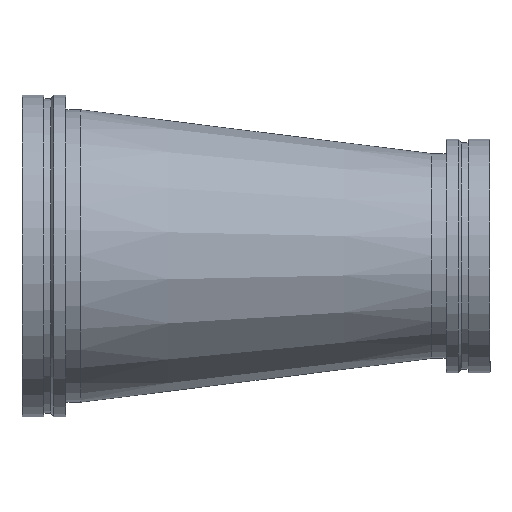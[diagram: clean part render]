
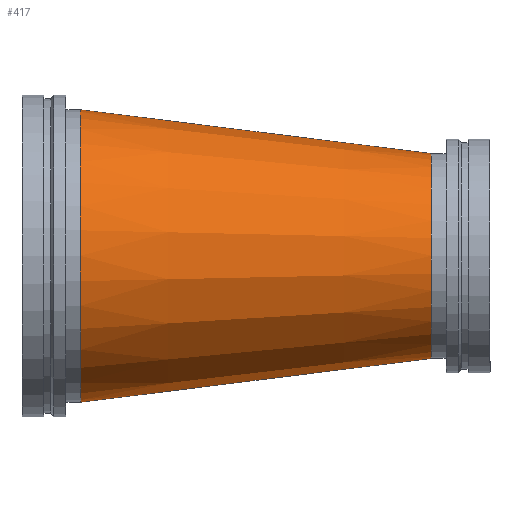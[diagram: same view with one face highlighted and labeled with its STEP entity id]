
A CAD part, top view. The second image highlights one B-rep face of the part: STEP entity #417.
In plain terms, the highlighted conical face has half-angle 7.125 degrees and reference radius 215.9 mm.
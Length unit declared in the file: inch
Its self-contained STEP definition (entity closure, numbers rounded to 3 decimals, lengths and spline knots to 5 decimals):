
#46=CONICAL_SURFACE('',#475,8.5,0.124);
#54=LINE('',#739,#68);
#68=VECTOR('',#587,8.5);
#101=FACE_OUTER_BOUND('',#124,.T.);
#124=EDGE_LOOP('',(#315,#316,#317,#318,#319,#320));
#155=CIRCLE('',#473,10.);
#156=CIRCLE('',#474,10.);
#157=CIRCLE('',#476,7.);
#158=CIRCLE('',#477,7.);
#195=VERTEX_POINT('',#729);
#196=VERTEX_POINT('',#730);
#197=VERTEX_POINT('',#735);
#198=VERTEX_POINT('',#736);
#239=EDGE_CURVE('',#195,#196,#155,.T.);
#240=EDGE_CURVE('',#196,#195,#156,.T.);
#242=EDGE_CURVE('',#197,#198,#157,.T.);
#243=EDGE_CURVE('',#198,#197,#158,.T.);
#244=EDGE_CURVE('',#198,#196,#54,.T.);
#315=ORIENTED_EDGE('',*,*,#242,.F.);
#316=ORIENTED_EDGE('',*,*,#243,.F.);
#317=ORIENTED_EDGE('',*,*,#244,.T.);
#318=ORIENTED_EDGE('',*,*,#240,.T.);
#319=ORIENTED_EDGE('',*,*,#239,.T.);
#320=ORIENTED_EDGE('',*,*,#244,.F.);
#417=ADVANCED_FACE('',(#101),#46,.T.);
#473=AXIS2_PLACEMENT_3D('',#731,#576,#577);
#474=AXIS2_PLACEMENT_3D('',#732,#578,#579);
#475=AXIS2_PLACEMENT_3D('',#734,#581,#582);
#476=AXIS2_PLACEMENT_3D('',#737,#583,#584);
#477=AXIS2_PLACEMENT_3D('',#738,#585,#586);
#576=DIRECTION('center_axis',(1.,0.,0.));
#577=DIRECTION('ref_axis',(0.,0.,-1.));
#578=DIRECTION('center_axis',(1.,0.,0.));
#579=DIRECTION('ref_axis',(0.,0.,-1.));
#581=DIRECTION('center_axis',(-1.,0.,0.));
#582=DIRECTION('ref_axis',(0.,1.,0.));
#583=DIRECTION('center_axis',(1.,0.,0.));
#584=DIRECTION('ref_axis',(0.,0.,-1.));
#585=DIRECTION('center_axis',(1.,0.,0.));
#586=DIRECTION('ref_axis',(0.,0.,-1.));
#587=DIRECTION('',(-0.992,-0.124,0.));
#729=CARTESIAN_POINT('',(4.,10.,0.));
#730=CARTESIAN_POINT('',(4.,-10.,0.));
#731=CARTESIAN_POINT('Origin',(4.,0.,0.));
#732=CARTESIAN_POINT('Origin',(4.,0.,0.));
#734=CARTESIAN_POINT('Origin',(16.,0.,0.));
#735=CARTESIAN_POINT('',(28.,7.,0.));
#736=CARTESIAN_POINT('',(28.,-7.,0.));
#737=CARTESIAN_POINT('Origin',(28.,0.,0.));
#738=CARTESIAN_POINT('Origin',(28.,0.,0.));
#739=CARTESIAN_POINT('',(16.,-8.5,0.));
